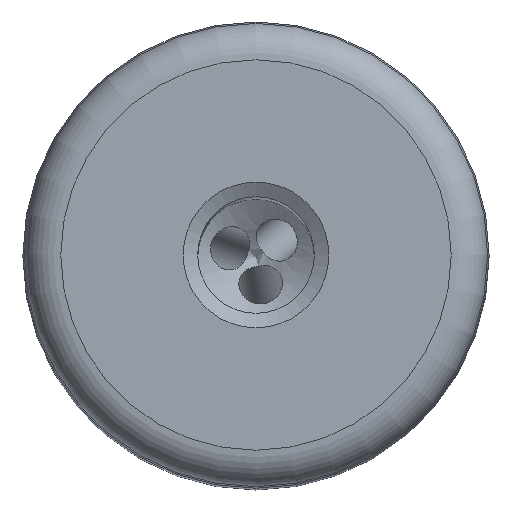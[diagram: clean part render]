
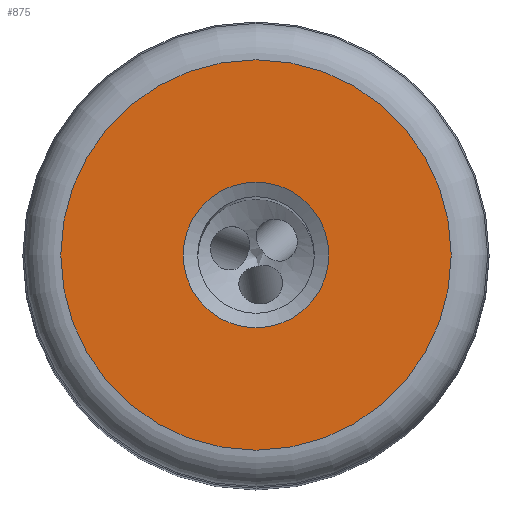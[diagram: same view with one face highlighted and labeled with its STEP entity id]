
A CAD part, top view. The second image highlights one B-rep face of the part: STEP entity #875.
In plain terms, the highlighted planar face has unit normal (0, 0, 1).
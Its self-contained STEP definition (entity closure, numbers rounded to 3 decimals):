
#512=FACE_BOUND('',#1175,.T.);
#513=FACE_BOUND('',#1176,.T.);
#875=ADVANCED_FACE('',(#512,#513),#983,.F.);
#983=PLANE('',#3271);
#1175=EDGE_LOOP('',(#1618));
#1176=EDGE_LOOP('',(#1619));
#1618=ORIENTED_EDGE('',*,*,#2744,.T.);
#1619=ORIENTED_EDGE('',*,*,#2743,.T.);
#2410=VERTEX_POINT('',#5076);
#2411=VERTEX_POINT('',#5079);
#2743=EDGE_CURVE('',#2410,#2410,#3089,.T.);
#2744=EDGE_CURVE('',#2411,#2411,#3090,.T.);
#3089=CIRCLE('',#3268,13.4);
#3090=CIRCLE('',#3270,5.);
#3268=AXIS2_PLACEMENT_3D('',#5075,#3694,#3695);
#3270=AXIS2_PLACEMENT_3D('',#5078,#3698,#3699);
#3271=AXIS2_PLACEMENT_3D('',#5080,#3700,#3701);
#3694=DIRECTION('',(0.,0.,1.));
#3695=DIRECTION('',(1.,0.,0.));
#3698=DIRECTION('',(0.,0.,-1.));
#3699=DIRECTION('',(-1.,0.,0.));
#3700=DIRECTION('',(0.,0.,-1.));
#3701=DIRECTION('',(1.,0.,0.));
#5075=CARTESIAN_POINT('',(0.,0.,0.));
#5076=CARTESIAN_POINT('',(13.4,0.,0.));
#5078=CARTESIAN_POINT('',(0.,0.,0.));
#5079=CARTESIAN_POINT('',(-5.,0.,0.));
#5080=CARTESIAN_POINT('',(-13.4,0.,0.));
